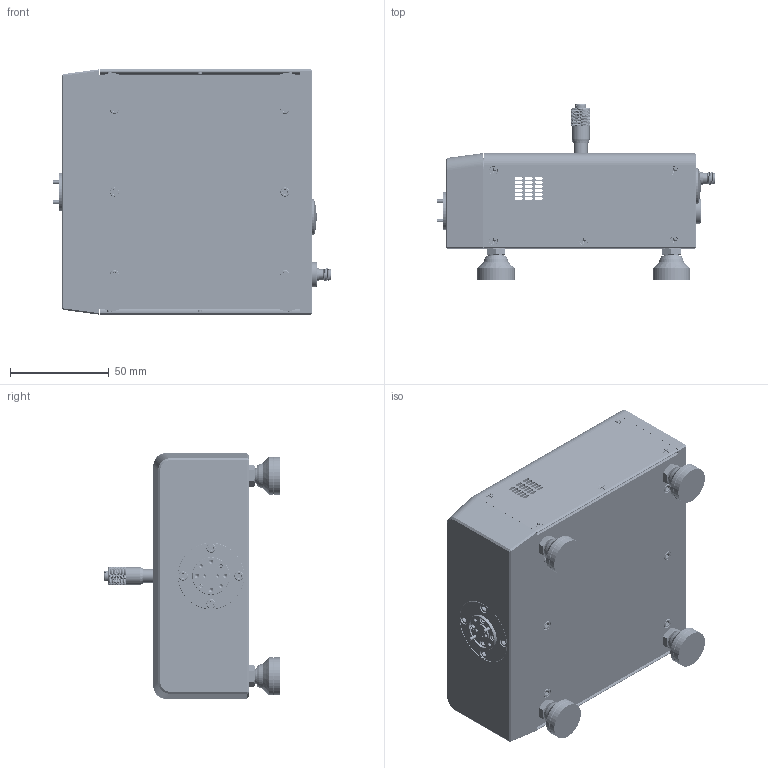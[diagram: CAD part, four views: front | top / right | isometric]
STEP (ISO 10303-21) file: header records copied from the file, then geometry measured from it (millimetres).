
FILE_DESCRIPTION (( 'STEP AP214' ), '1' );
FILE_NAME ('TE-V-A-2.STEP', '2025-01-10T21:48:50', ( '' ), ( '' ), 'SwSTEP 2.0', 'SolidWorks 2021', '' );
FILE_SCHEMA (( 'AUTOMOTIVE_DESIGN' ));
Length unit declared in the file: inch
Products named in the file (1): TE-V-A-2
Bounding box: 141.1 x 89.15 x 124.32 mm (x, y, z)
Volume: 266930 mm3; surface area: 147954.2 mm2
Topology: 56 solids, 56 shells, 6249 faces, 14433 edges, 8300 vertices
Faces by surface type: bspline 2682, cylinder 1850, plane 1039, cone 602, sphere 40, torus 36
Entity records: 669759 total; most frequent: CARTESIAN_POINT 561363, ORIENTED_EDGE 28532, DIRECTION 15486, EDGE_CURVE 14266, VERTEX_POINT 8289, EDGE_LOOP 6611, FACE_OUTER_BOUND 6249, ADVANCED_FACE 6249
